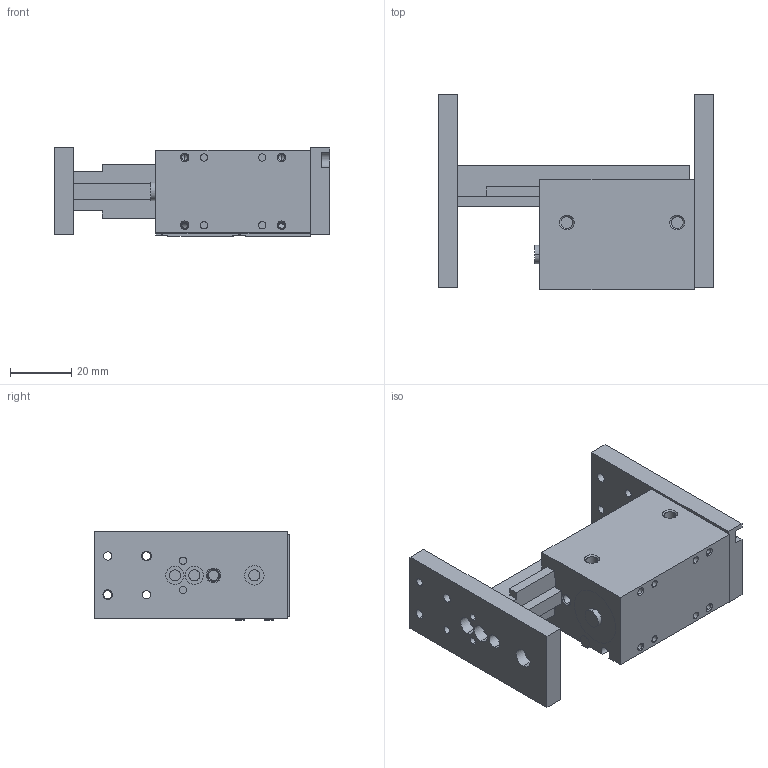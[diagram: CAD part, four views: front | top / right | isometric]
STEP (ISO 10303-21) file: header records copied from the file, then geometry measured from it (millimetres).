
FILE_DESCRIPTION (( 'STEP AP203' ), '1' );
FILE_NAME ('AGPS-2-2 OPEN in MM.STEP', '2014-11-21T17:24:32', ( 'setup' ), ( '' ), 'SwSTEP 2.0', 'SolidWorks 2013', '' );
FILE_SCHEMA (( 'CONFIG_CONTROL_DESIGN' ));
Length unit declared in the file: millimetre
Products named in the file (8): AGPS-2-2 END PLATE A; AGPS-2-2 OPEN in MM; AGPS-2-2 BODY; AGPS-2-2 CUSHION; AGPS-2-2 RAIL; AGPS-2-2 PROD; AGPS-2-2 SENSOR; AGPS-2-2 END PLATE B
Assembly tree (8 placements, depth 2):
  AGPS-2-2 OPEN in MM
    AGPS-2-2 BODY
    AGPS-2-2 CUSHION
    AGPS-2-2 RAIL
    AGPS-2-2 PROD
    AGPS-2-2 SENSOR  x2
    AGPS-2-2 END PLATE B
    AGPS-2-2 END PLATE A
Bounding box: 90.49 x 64.21 x 29 mm (x, y, z)
Volume: 73462 mm3; surface area: 30704.7 mm2
Topology: 8 solids, 8 shells, 308 faces, 739 edges, 472 vertices
Faces by surface type: cylinder 139, plane 127, cone 40, torus 2
Entity records: 9232 total; most frequent: DIRECTION 1524, CARTESIAN_POINT 1510, ORIENTED_EDGE 1332, EDGE_CURVE 666, AXIS2_PLACEMENT_3D 576, VERTEX_POINT 432, VECTOR 372, LINE 372
